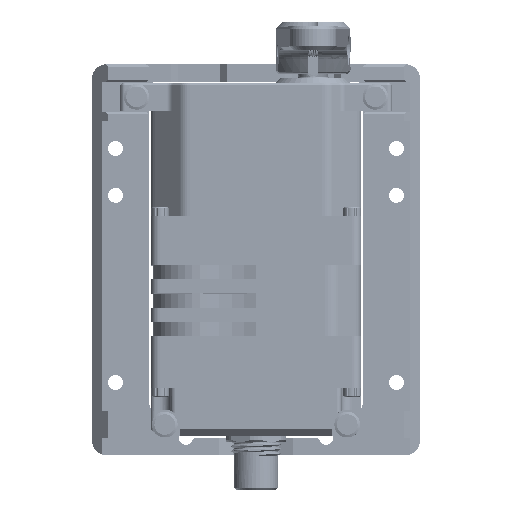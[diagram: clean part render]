
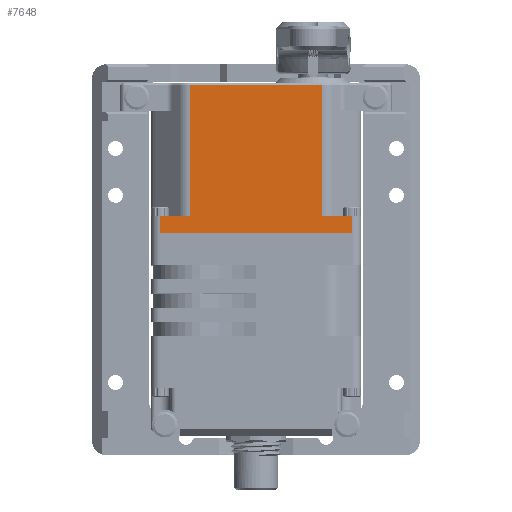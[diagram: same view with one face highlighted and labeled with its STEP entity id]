
A CAD part, top view. The second image highlights one B-rep face of the part: STEP entity #7648.
In plain terms, the highlighted planar face has unit normal (0, 0, 1).
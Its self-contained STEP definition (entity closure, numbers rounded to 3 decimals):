
#3687=DIRECTION('',(1.,0.,0.));
#3688=VECTOR('',#3687,41.);
#3689=CARTESIAN_POINT('',(-20.5,0.,10.));
#3690=LINE('',#3689,#3688);
#3817=DIRECTION('',(-1.,0.,0.));
#3818=VECTOR('',#3817,6.308);
#3819=CARTESIAN_POINT('',(20.5,3.5,10.));
#3820=LINE('',#3819,#3818);
#3838=DIRECTION('',(-1.,0.,0.));
#3839=VECTOR('',#3838,6.308);
#3840=CARTESIAN_POINT('',(-14.192,3.5,10.));
#3841=LINE('',#3840,#3839);
#4749=DIRECTION('',(1.,0.,0.));
#4750=VECTOR('',#4749,28.383);
#4751=CARTESIAN_POINT('',(-14.192,31.5,10.));
#4752=LINE('',#4751,#4750);
#4756=DIRECTION('',(0.,-1.,0.));
#4757=VECTOR('',#4756,28.);
#4758=CARTESIAN_POINT('',(14.192,31.5,10.));
#4759=LINE('',#4758,#4757);
#4763=DIRECTION('',(0.,1.,0.));
#4764=VECTOR('',#4763,3.5);
#4765=CARTESIAN_POINT('',(-20.5,0.,10.));
#4766=LINE('',#4765,#4764);
#4770=DIRECTION('',(0.,1.,0.));
#4771=VECTOR('',#4770,28.);
#4772=CARTESIAN_POINT('',(-14.192,3.5,10.));
#4773=LINE('',#4772,#4771);
#4785=DIRECTION('',(0.,1.,0.));
#4786=VECTOR('',#4785,3.5);
#4787=CARTESIAN_POINT('',(20.5,0.,10.));
#4788=LINE('',#4787,#4786);
#6449=CARTESIAN_POINT('',(-20.5,0.,10.));
#6450=VERTEX_POINT('',#6449);
#6451=CARTESIAN_POINT('',(20.5,0.,10.));
#6452=VERTEX_POINT('',#6451);
#6480=CARTESIAN_POINT('',(-20.5,3.5,10.));
#6482=VERTEX_POINT('',#6480);
#6483=CARTESIAN_POINT('',(20.5,3.5,10.));
#6485=VERTEX_POINT('',#6483);
#6555=CARTESIAN_POINT('',(14.192,3.5,10.));
#6556=VERTEX_POINT('',#6555);
#6641=CARTESIAN_POINT('',(-14.192,3.5,10.));
#6642=VERTEX_POINT('',#6641);
#6693=CARTESIAN_POINT('',(-14.192,31.5,10.));
#6694=VERTEX_POINT('',#6693);
#6697=CARTESIAN_POINT('',(14.192,31.5,10.));
#6698=VERTEX_POINT('',#6697);
#7630=CARTESIAN_POINT('',(-20.5,0.,10.));
#7631=DIRECTION('',(0.,0.,1.));
#7632=DIRECTION('',(1.,0.,0.));
#7633=AXIS2_PLACEMENT_3D('',#7630,#7631,#7632);
#7634=PLANE('',#7633);
#7635=ORIENTED_EDGE('',*,*,#7598,.T.);
#7636=ORIENTED_EDGE('',*,*,#7625,.T.);
#7637=ORIENTED_EDGE('',*,*,#6884,.F.);
#7639=ORIENTED_EDGE('',*,*,#7638,.F.);
#7640=ORIENTED_EDGE('',*,*,#6798,.F.);
#7642=ORIENTED_EDGE('',*,*,#7641,.T.);
#7643=ORIENTED_EDGE('',*,*,#6910,.F.);
#7645=ORIENTED_EDGE('',*,*,#7644,.T.);
#7646=EDGE_LOOP('',(#7635,#7636,#7637,#7639,#7640,#7642,#7643,#7645));
#7647=FACE_OUTER_BOUND('',#7646,.F.);
#7648=ADVANCED_FACE('',(#7647),#7634,.T.);
#6798=EDGE_CURVE('',#6450,#6452,#3690,.T.);
#6884=EDGE_CURVE('',#6485,#6556,#3820,.T.);
#6910=EDGE_CURVE('',#6642,#6482,#3841,.T.);
#7598=EDGE_CURVE('',#6694,#6698,#4752,.T.);
#7625=EDGE_CURVE('',#6698,#6556,#4759,.T.);
#7638=EDGE_CURVE('',#6452,#6485,#4788,.T.);
#7641=EDGE_CURVE('',#6450,#6482,#4766,.T.);
#7644=EDGE_CURVE('',#6642,#6694,#4773,.T.);
